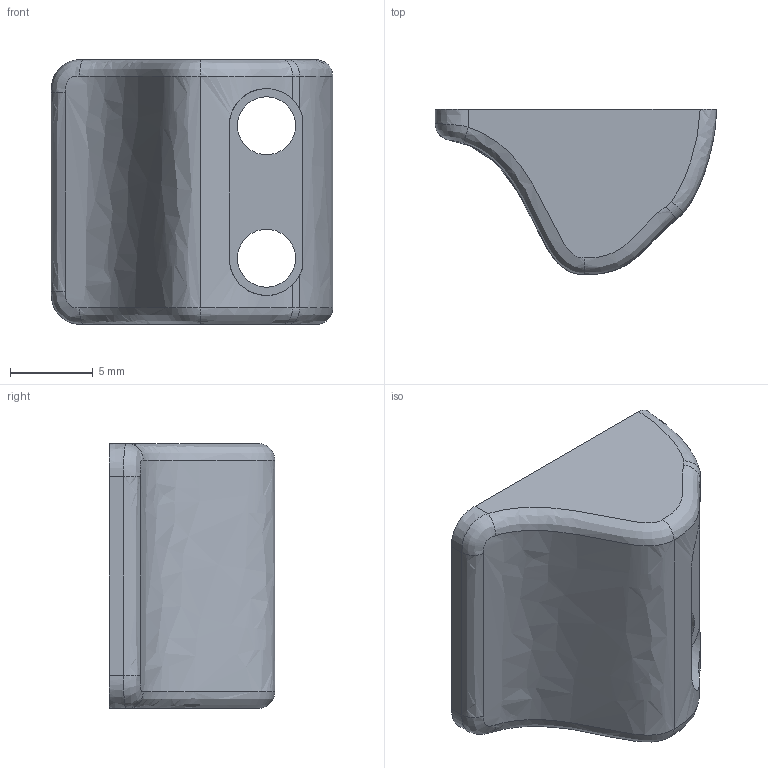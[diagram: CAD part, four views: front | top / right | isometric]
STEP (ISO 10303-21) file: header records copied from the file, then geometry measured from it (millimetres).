
FILE_DESCRIPTION(/* description */ (''),/* implementation_level */ '2;1');
FILE_NAME(/* name */ 'BRACKET.step',/* time_stamp */ '2024-02-28T16:49:55Z',/* author */ (''),/* organization */ (''),/* preprocessor_version */ 'ST-DEVELOPER v20',/* originating_system */ 'Autodesk Translation Framework v12.20.1.177',/* authorisation */ '');
FILE_SCHEMA (('AUTOMOTIVE_DESIGN { 1 0 10303 214 3 1 1 }'));
Length unit declared in the file: millimetre
Products named in the file (1): BRACKET (1)
Bounding box: 17 x 10 x 16 mm (x, y, z)
Volume: 1476.6 mm3; surface area: 1047.8 mm2
Topology: 1 solids, 1 shells, 28 faces, 68 edges, 42 vertices
Faces by surface type: bspline 14, plane 8, cylinder 6
Full cylindrical faces by diameter (mm): 3.5 x2
Entity records: 1755 total; most frequent: CARTESIAN_POINT 1149, ORIENTED_EDGE 136, DIRECTION 80, EDGE_CURVE 68, VERTEX_POINT 42, EDGE_LOOP 32, B_SPLINE_CURVE_WITH_KNOTS 32, AXIS2_PLACEMENT_3D 29
